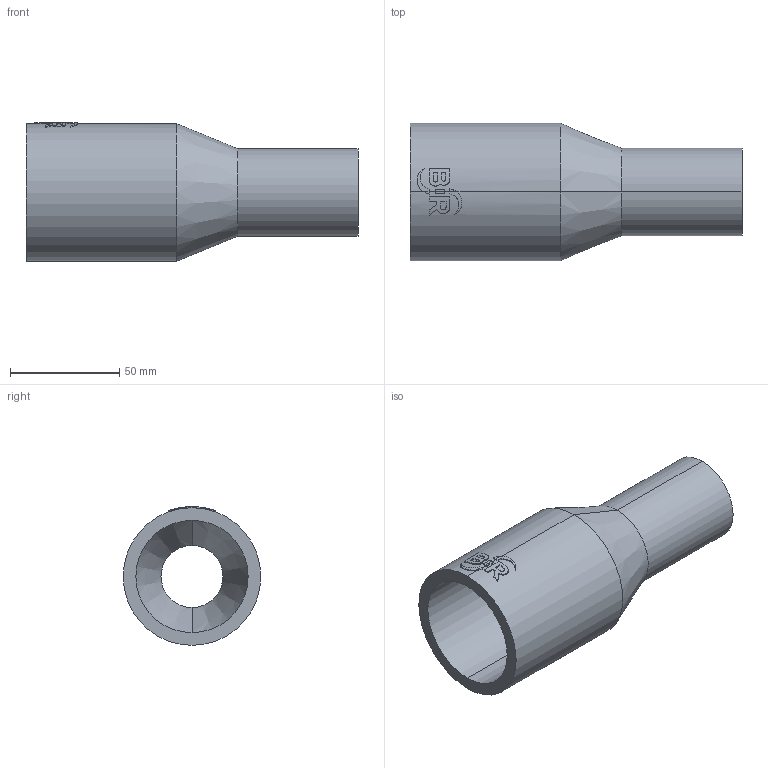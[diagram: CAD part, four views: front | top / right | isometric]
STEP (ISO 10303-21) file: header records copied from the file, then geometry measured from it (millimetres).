
FILE_DESCRIPTION (( 'STEP AP214' ), '1' );
FILE_NAME ('2323110915.STEP', '2018-07-20T09:09:21', ( '' ), ( '' ), 'SwSTEP 2.0', 'SolidWorks 2017', '' );
FILE_SCHEMA (( 'AUTOMOTIVE_DESIGN' ));
Length unit declared in the file: millimetre
Products named in the file (1): 2323110915
Bounding box: 152 x 63 x 63.46 mm (x, y, z)
Volume: 131228.6 mm3; surface area: 46977.3 mm2
Topology: 1 solids, 1 shells, 63 faces, 160 edges, 104 vertices
Faces by surface type: cylinder 31, plane 28, cone 4
Entity records: 3060 total; most frequent: CARTESIAN_POINT 851, ORIENTED_EDGE 320, DIRECTION 296, EDGE_CURVE 160, AXIS2_PLACEMENT_3D 112, VERTEX_POINT 104, VECTOR 72, LINE 72
